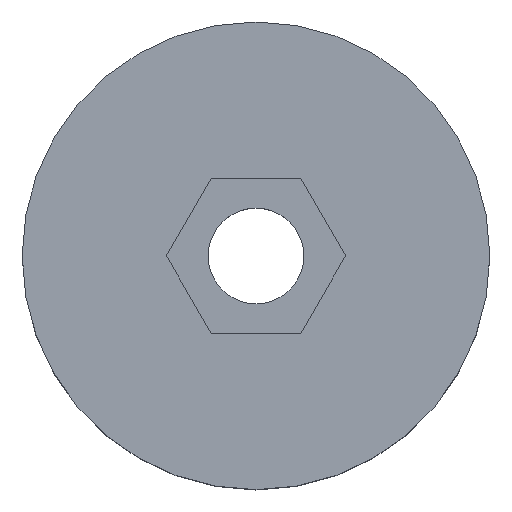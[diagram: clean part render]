
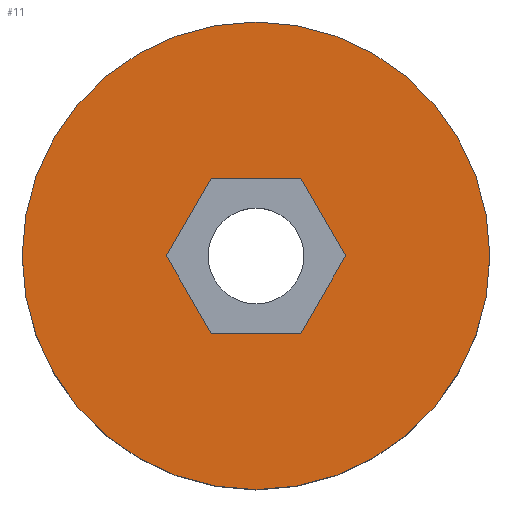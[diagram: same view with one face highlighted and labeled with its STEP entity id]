
A CAD part, top view. The second image highlights one B-rep face of the part: STEP entity #11.
In plain terms, the highlighted planar face has unit normal (0, 0, 1).
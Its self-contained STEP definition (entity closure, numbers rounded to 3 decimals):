
#3 = FACE_OUTER_BOUND ( 'NONE', #51, .T. ) ;
#4 = VECTOR ( 'NONE', #414, 1000. ) ;
#11 = ADVANCED_FACE ( 'NONE', ( #3, #77 ), #306, .T. ) ;
#41 = AXIS2_PLACEMENT_3D ( 'NONE', #127, #413, #431 ) ;
#50 = CIRCLE ( 'NONE', #424, 11. ) ;
#51 = EDGE_LOOP ( 'NONE', ( #326, #330 ) ) ;
#61 = VECTOR ( 'NONE', #250, 1000. ) ;
#66 = LINE ( 'NONE', #216, #4 ) ;
#77 = FACE_BOUND ( 'NONE', #262, .T. ) ;
#82 = ORIENTED_EDGE ( 'NONE', *, *, #370, .F. ) ;
#84 = VERTEX_POINT ( 'NONE', #126 ) ;
#88 = DIRECTION ( 'NONE',  ( 0., 0., 1. ) ) ;
#94 = CARTESIAN_POINT ( 'NONE',  ( 2.107, -3.65, 9. ) ) ;
#97 = CARTESIAN_POINT ( 'NONE',  ( 2.107, 3.65, 9. ) ) ;
#106 = CARTESIAN_POINT ( 'NONE',  ( 2.107, 3.65, 9. ) ) ;
#113 = VECTOR ( 'NONE', #208, 1000. ) ;
#123 = CARTESIAN_POINT ( 'NONE',  ( -4.215, 0., 9. ) ) ;
#126 = CARTESIAN_POINT ( 'NONE',  ( 11., 0., 9. ) ) ;
#127 = CARTESIAN_POINT ( 'NONE',  ( 0., 0., 9. ) ) ;
#134 = DIRECTION ( 'NONE',  ( 1., 0., 0. ) ) ;
#135 = DIRECTION ( 'NONE',  ( 0.5, 0.866, 0. ) ) ;
#141 = VECTOR ( 'NONE', #135, 1000. ) ;
#153 = VERTEX_POINT ( 'NONE', #123 ) ;
#175 = DIRECTION ( 'NONE',  ( -0.5, 0.866, 0. ) ) ;
#180 = CARTESIAN_POINT ( 'NONE',  ( -2.107, -3.65, 9. ) ) ;
#185 = ORIENTED_EDGE ( 'NONE', *, *, #256, .F. ) ;
#196 = CARTESIAN_POINT ( 'NONE',  ( -11., 0., 9. ) ) ;
#200 = DIRECTION ( 'NONE',  ( 0., 0., 1. ) ) ;
#204 = LINE ( 'NONE', #97, #390 ) ;
#206 = VECTOR ( 'NONE', #175, 1000. ) ;
#208 = DIRECTION ( 'NONE',  ( -0.5, -0.866, 0. ) ) ;
#211 = VERTEX_POINT ( 'NONE', #180 ) ;
#216 = CARTESIAN_POINT ( 'NONE',  ( -4.215, 0., 9. ) ) ;
#217 = EDGE_CURVE ( 'NONE', #211, #298, #344, .T. ) ;
#219 = CARTESIAN_POINT ( 'NONE',  ( -2.107, 3.65, 9. ) ) ;
#224 = VERTEX_POINT ( 'NONE', #106 ) ;
#241 = DIRECTION ( 'NONE',  ( 1., 0., 0. ) ) ;
#243 = CARTESIAN_POINT ( 'NONE',  ( 4.215, 0., 9. ) ) ;
#245 = EDGE_CURVE ( 'NONE', #285, #224, #384, .T. ) ;
#248 = CIRCLE ( 'NONE', #41, 11. ) ;
#250 = DIRECTION ( 'NONE',  ( 1., 0., 0. ) ) ;
#254 = VERTEX_POINT ( 'NONE', #417 ) ;
#256 = EDGE_CURVE ( 'NONE', #254, #153, #451, .T. ) ;
#262 = EDGE_LOOP ( 'NONE', ( #366, #279, #393, #288, #185, #82 ) ) ;
#273 = CARTESIAN_POINT ( 'NONE',  ( 0., 0., 9. ) ) ;
#279 = ORIENTED_EDGE ( 'NONE', *, *, #409, .F. ) ;
#283 = EDGE_CURVE ( 'NONE', #153, #211, #66, .T. ) ;
#285 = VERTEX_POINT ( 'NONE', #243 ) ;
#288 = ORIENTED_EDGE ( 'NONE', *, *, #283, .F. ) ;
#298 = VERTEX_POINT ( 'NONE', #418 ) ;
#306 = PLANE ( 'NONE',  #416 ) ;
#309 = CARTESIAN_POINT ( 'NONE',  ( 4.215, 0., 9. ) ) ;
#326 = ORIENTED_EDGE ( 'NONE', *, *, #455, .T. ) ;
#330 = ORIENTED_EDGE ( 'NONE', *, *, #338, .T. ) ;
#331 = CARTESIAN_POINT ( 'NONE',  ( 0., 0., 9. ) ) ;
#338 = EDGE_CURVE ( 'NONE', #84, #391, #248, .T. ) ;
#344 = LINE ( 'NONE', #347, #61 ) ;
#347 = CARTESIAN_POINT ( 'NONE',  ( -2.107, -3.65, 9. ) ) ;
#366 = ORIENTED_EDGE ( 'NONE', *, *, #245, .F. ) ;
#370 = EDGE_CURVE ( 'NONE', #224, #254, #204, .T. ) ;
#384 = LINE ( 'NONE', #309, #206 ) ;
#390 = VECTOR ( 'NONE', #439, 1000. ) ;
#391 = VERTEX_POINT ( 'NONE', #196 ) ;
#393 = ORIENTED_EDGE ( 'NONE', *, *, #217, .F. ) ;
#404 = LINE ( 'NONE', #94, #141 ) ;
#409 = EDGE_CURVE ( 'NONE', #298, #285, #404, .T. ) ;
#413 = DIRECTION ( 'NONE',  ( 0., 0., 1. ) ) ;
#414 = DIRECTION ( 'NONE',  ( 0.5, -0.866, 0. ) ) ;
#416 = AXIS2_PLACEMENT_3D ( 'NONE', #331, #88, #134 ) ;
#417 = CARTESIAN_POINT ( 'NONE',  ( -2.107, 3.65, 9. ) ) ;
#418 = CARTESIAN_POINT ( 'NONE',  ( 2.107, -3.65, 9. ) ) ;
#424 = AXIS2_PLACEMENT_3D ( 'NONE', #273, #200, #241 ) ;
#431 = DIRECTION ( 'NONE',  ( 1., 0., 0. ) ) ;
#439 = DIRECTION ( 'NONE',  ( -1., 0., 0. ) ) ;
#451 = LINE ( 'NONE', #219, #113 ) ;
#455 = EDGE_CURVE ( 'NONE', #391, #84, #50, .T. ) ;
